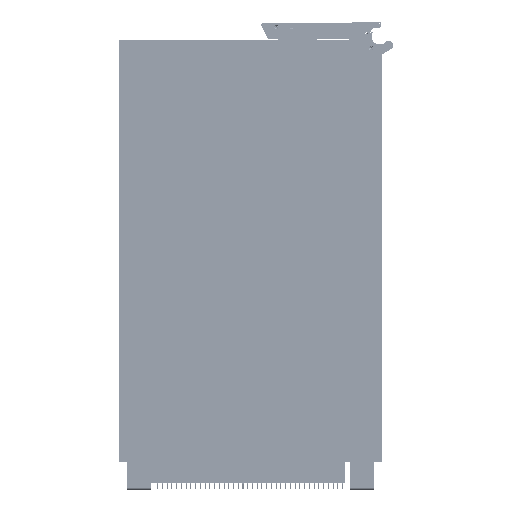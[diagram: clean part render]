
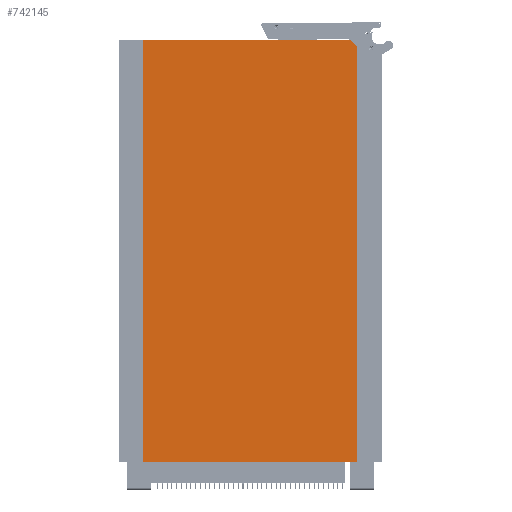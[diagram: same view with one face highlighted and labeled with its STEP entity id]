
A CAD part, front view. The second image highlights one B-rep face of the part: STEP entity #742145.
In plain terms, the highlighted planar face has unit normal (0, -1, 0).
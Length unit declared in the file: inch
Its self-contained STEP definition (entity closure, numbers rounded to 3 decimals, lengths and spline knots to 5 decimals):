
#18520 = CARTESIAN_POINT ( 'NONE',  ( -1.5985, -0.755, 0. ) ) ;
#42907 = VERTEX_POINT ( 'NONE', #18520 ) ;
#51296 = PLANE ( 'NONE',  #129463 ) ;
#73402 = CARTESIAN_POINT ( 'NONE',  ( -1.5985, -0.755, -6.29921 ) ) ;
#97230 = VERTEX_POINT ( 'NONE', #287893 ) ;
#108994 = DIRECTION ( 'NONE',  ( 0., 1., 0. ) ) ;
#125565 = CARTESIAN_POINT ( 'NONE',  ( -1.5985, -0.755, -6.29921 ) ) ;
#129463 = AXIS2_PLACEMENT_3D ( 'NONE', #279581, #108994, #510720 ) ;
#154314 = ORIENTED_EDGE ( 'NONE', *, *, #577335, .F. ) ;
#159401 = VECTOR ( 'NONE', #602559, 39.37008 ) ;
#160838 = EDGE_CURVE ( 'NONE', #205251, #311002, #600091, .T. ) ;
#183921 = ORIENTED_EDGE ( 'NONE', *, *, #160838, .T. ) ;
#205251 = VERTEX_POINT ( 'NONE', #605984 ) ;
#249895 = DIRECTION ( 'NONE',  ( 0., 0., 1. ) ) ;
#252666 = CARTESIAN_POINT ( 'NONE',  ( 1.5985, -0.755, -0.1 ) ) ;
#256049 = CARTESIAN_POINT ( 'NONE',  ( 0., -0.755, 0. ) ) ;
#264049 = VECTOR ( 'NONE', #683114, 39.37008 ) ;
#279581 = CARTESIAN_POINT ( 'NONE',  ( 0., -0.755, -6.29921 ) ) ;
#287893 = CARTESIAN_POINT ( 'NONE',  ( 1.4985, -0.755, 0. ) ) ;
#311002 = VERTEX_POINT ( 'NONE', #252666 ) ;
#312180 = LINE ( 'NONE', #256049, #159401 ) ;
#340764 = LINE ( 'NONE', #418929, #628331 ) ;
#358915 = DIRECTION ( 'NONE',  ( 0., 0., 1. ) ) ;
#418929 = CARTESIAN_POINT ( 'NONE',  ( 0., -0.755, -6.29921 ) ) ;
#429364 = VECTOR ( 'NONE', #249895, 39.37008 ) ;
#432775 = EDGE_LOOP ( 'NONE', ( #183921, #698196, #733568, #154314, #583324 ) ) ;
#476717 = DIRECTION ( 'NONE',  ( -1., 0., 0. ) ) ;
#478478 = CARTESIAN_POINT ( 'NONE',  ( 1.5985, -0.755, -6.29921 ) ) ;
#510720 = DIRECTION ( 'NONE',  ( -1., 0., 0. ) ) ;
#518996 = VECTOR ( 'NONE', #358915, 39.37008 ) ;
#536218 = EDGE_CURVE ( 'NONE', #205251, #599364, #340764, .T. ) ;
#537014 = LINE ( 'NONE', #125565, #518996 ) ;
#543179 = EDGE_CURVE ( 'NONE', #311002, #97230, #551729, .T. ) ;
#551729 = LINE ( 'NONE', #625297, #264049 ) ;
#555195 = EDGE_CURVE ( 'NONE', #97230, #42907, #312180, .T. ) ;
#577335 = EDGE_CURVE ( 'NONE', #599364, #42907, #537014, .T. ) ;
#583324 = ORIENTED_EDGE ( 'NONE', *, *, #536218, .F. ) ;
#599364 = VERTEX_POINT ( 'NONE', #73402 ) ;
#600091 = LINE ( 'NONE', #478478, #429364 ) ;
#602559 = DIRECTION ( 'NONE',  ( -1., 0., 0. ) ) ;
#605984 = CARTESIAN_POINT ( 'NONE',  ( 1.5985, -0.755, -6.29921 ) ) ;
#625297 = CARTESIAN_POINT ( 'NONE',  ( 1.5985, -0.755, -0.1 ) ) ;
#628331 = VECTOR ( 'NONE', #476717, 39.37008 ) ;
#683114 = DIRECTION ( 'NONE',  ( -0.707, 0., 0.707 ) ) ;
#692822 = FACE_OUTER_BOUND ( 'NONE', #432775, .T. ) ;
#698196 = ORIENTED_EDGE ( 'NONE', *, *, #543179, .T. ) ;
#733568 = ORIENTED_EDGE ( 'NONE', *, *, #555195, .T. ) ;
#742145 = ADVANCED_FACE ( 'NONE', ( #692822 ), #51296, .F. ) ;
